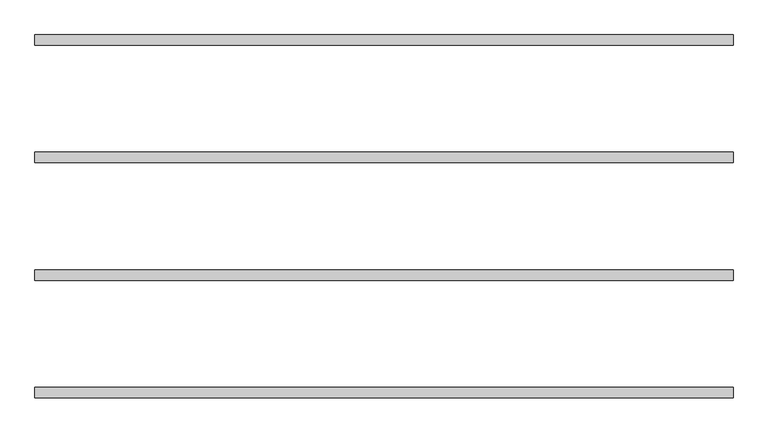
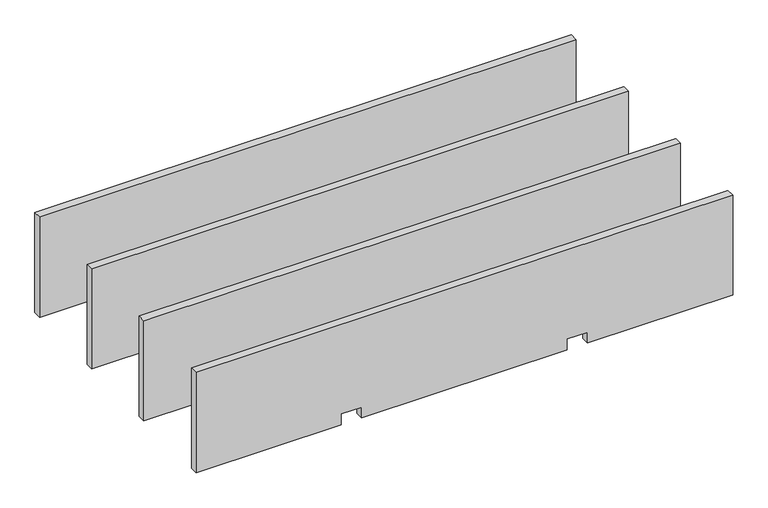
"""IFC4 building model written with IfcOpenShell, lengths in millimetres: proxy geometry."""

from ifc_helpers import new_model, si_unit, frame, origin, place, context, project, spatial, polyline, outline, extrude, source, transform, mapped, element, save


def specialty_equipment_be68d2b4(model_context):
    return source(origin(), model_context, "Body", "SweptSolid", [
        extrude(outline(polyline([(238.125, -603.25), (0.0, -603.25), (0.0, -276.9266291), (25.4635, -276.9266291), (25.4635, -231.0733709), (0.0, -231.0733709), (0.0, 231.0733709), (25.4635, 231.0733709), (25.4635, 276.9266291), (0.0, 276.9266291), (0.0, 603.25), (238.125, 603.25), (238.125, -603.25)])), frame((0.0, 600.59951, 0.0), z_axis=(0.0, 1.0, 0.0), x_axis=(0.0, 0.0, 1.0)), (0.0, 0.0, 1.0), 18.00098),
        extrude(outline(polyline([(238.125, -603.25), (0.0, -603.25), (0.0, -276.9266291), (25.4635, -276.9266291), (25.4635, -231.0733709), (0.0, -231.0733709), (0.0, 231.0733709), (25.4635, 231.0733709), (25.4635, 276.9266291), (0.0, 276.9266291), (0.0, 603.25), (238.125, 603.25), (238.125, -603.25)])), frame((0.0, 397.39951, 0.0), z_axis=(0.0, 1.0, 0.0), x_axis=(0.0, 0.0, 1.0)), (0.0, 0.0, 1.0), 18.00098),
        extrude(outline(polyline([(238.125, -603.25), (0.0, -603.25), (0.0, -276.9266291), (25.4635, -276.9266291), (25.4635, -231.0733709), (0.0, -231.0733709), (0.0, 231.0733709), (25.4635, 231.0733709), (25.4635, 276.9266291), (0.0, 276.9266291), (0.0, 603.25), (238.125, 603.25), (238.125, -603.25)])), frame((0.0, 194.19951, 0.0), z_axis=(0.0, 1.0, 0.0), x_axis=(0.0, 0.0, 1.0)), (0.0, 0.0, 1.0), 18.00098),
        extrude(outline(polyline([(238.125, -603.25), (0.0, -603.25), (0.0, -276.9266291), (25.4635, -276.9266291), (25.4635, -231.0733709), (0.0, -231.0733709), (0.0, 231.0733709), (25.4635, 231.0733709), (25.4635, 276.9266291), (0.0, 276.9266291), (0.0, 603.25), (238.125, 603.25), (238.125, -603.25)])), frame((0.0, -9.00049, 0.0), z_axis=(0.0, 1.0, 0.0), x_axis=(0.0, 0.0, 1.0)), (0.0, 0.0, 1.0), 18.00098),
    ])


if __name__ == "__main__":
    model = new_model("IFC4")
    model_context = context("Model", 3, world=origin())
    ifc_project = project(units=[si_unit("LENGTHUNIT", "METRE", prefix="MILLI")], contexts=[model_context])
    site = spatial("IfcSite", under=ifc_project)
    building = spatial("IfcBuilding", under=site)
    placement = place(None, origin())
    specialty_equipment_shape = specialty_equipment_be68d2b4(model_context)
    element("IfcBuildingElementProxy", 1, Name="SE_TIMBER BAFFLE_MULTI-SYSTEM_FB_TURF : 47.5\" - FELTLOCK", ObjectType="SE_TIMBER BAFFLE_MULTI-SYSTEM_FB_TURF : 47.5\" - FELTLOCK", at=placement, inside=building, context=model_context, shape_type="MappedRepresentation", body=[
        mapped(specialty_equipment_shape, transform((0.0, 0.0, 0.0), x_axis=(1.0, 0.0, 0.0), y_axis=(0.0, 1.0, 0.0), z_axis=(0.0, 0.0, 1.0))),
    ])
    save(model, "model.ifc")
